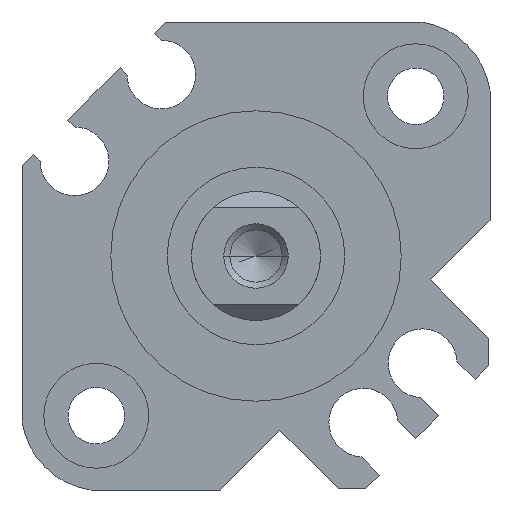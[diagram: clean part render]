
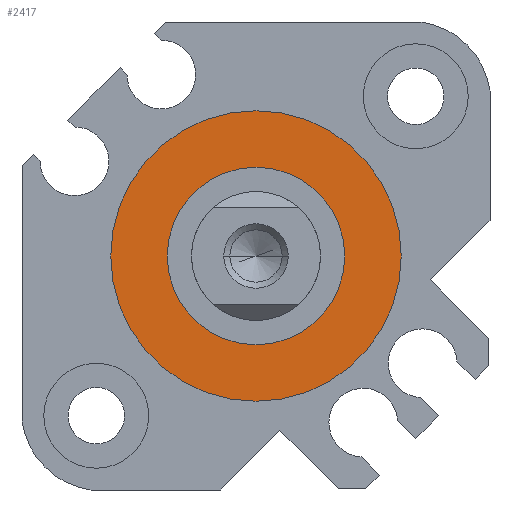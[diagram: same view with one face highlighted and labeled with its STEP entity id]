
A CAD part, left-side view. The second image highlights one B-rep face of the part: STEP entity #2417.
In plain terms, the highlighted planar face has unit normal (-1, 0, 0).
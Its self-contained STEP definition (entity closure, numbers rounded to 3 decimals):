
#136 = CARTESIAN_POINT ( 'NONE',  ( 1.1, 0., 0. ) ) ;
#144 = DIRECTION ( 'NONE',  ( 0., 0., -1. ) ) ;
#152 = PLANE ( 'NONE',  #1544 ) ;
#213 = FACE_OUTER_BOUND ( 'NONE', #3119, .T. ) ;
#236 = EDGE_LOOP ( 'NONE', ( #588, #1117 ) ) ;
#237 = AXIS2_PLACEMENT_3D ( 'NONE', #416, #1999, #144 ) ;
#301 = CARTESIAN_POINT ( 'NONE',  ( 1.1, 0., 0. ) ) ;
#416 = CARTESIAN_POINT ( 'NONE',  ( 1.1, 0., 0. ) ) ;
#439 = DIRECTION ( 'NONE',  ( 0., 1., 0. ) ) ;
#471 = EDGE_CURVE ( 'NONE', #2368, #2521, #1412, .T. ) ;
#588 = ORIENTED_EDGE ( 'NONE', *, *, #471, .T. ) ;
#655 = AXIS2_PLACEMENT_3D ( 'NONE', #979, #2038, #1030 ) ;
#800 = AXIS2_PLACEMENT_3D ( 'NONE', #1418, #943, #2000 ) ;
#943 = DIRECTION ( 'NONE',  ( 1., 0., 0. ) ) ;
#979 = CARTESIAN_POINT ( 'NONE',  ( 1.1, 0., 0. ) ) ;
#1030 = DIRECTION ( 'NONE',  ( 0., 0., -1. ) ) ;
#1043 = CIRCLE ( 'NONE', #655, 5.5 ) ;
#1117 = ORIENTED_EDGE ( 'NONE', *, *, #2509, .T. ) ;
#1326 = CARTESIAN_POINT ( 'NONE',  ( 1.1, 0., -5.5 ) ) ;
#1347 = DIRECTION ( 'NONE',  ( 1., 0., 0. ) ) ;
#1356 = ORIENTED_EDGE ( 'NONE', *, *, #1819, .F. ) ;
#1363 = DIRECTION ( 'NONE',  ( 0., 0., -1. ) ) ;
#1412 = CIRCLE ( 'NONE', #237, 5.5 ) ;
#1418 = CARTESIAN_POINT ( 'NONE',  ( 1.1, 0., 0. ) ) ;
#1451 = CARTESIAN_POINT ( 'NONE',  ( 1.1, 0., 9. ) ) ;
#1499 = ORIENTED_EDGE ( 'NONE', *, *, #3376, .F. ) ;
#1517 = DIRECTION ( 'NONE',  ( 1., 0., 0. ) ) ;
#1544 = AXIS2_PLACEMENT_3D ( 'NONE', #136, #1517, #439 ) ;
#1819 = EDGE_CURVE ( 'NONE', #2260, #2360, #1836, .T. ) ;
#1836 = CIRCLE ( 'NONE', #2721, 9. ) ;
#1999 = DIRECTION ( 'NONE',  ( 1., 0., 0. ) ) ;
#2000 = DIRECTION ( 'NONE',  ( 0., 0., -1. ) ) ;
#2005 = CARTESIAN_POINT ( 'NONE',  ( 1.1, 0., 5.5 ) ) ;
#2038 = DIRECTION ( 'NONE',  ( 1., 0., 0. ) ) ;
#2260 = VERTEX_POINT ( 'NONE', #1451 ) ;
#2353 = CIRCLE ( 'NONE', #800, 9. ) ;
#2360 = VERTEX_POINT ( 'NONE', #3099 ) ;
#2368 = VERTEX_POINT ( 'NONE', #2005 ) ;
#2417 = ADVANCED_FACE ( 'NONE', ( #213, #3362 ), #152, .F. ) ;
#2509 = EDGE_CURVE ( 'NONE', #2521, #2368, #1043, .T. ) ;
#2521 = VERTEX_POINT ( 'NONE', #1326 ) ;
#2721 = AXIS2_PLACEMENT_3D ( 'NONE', #301, #1347, #1363 ) ;
#3099 = CARTESIAN_POINT ( 'NONE',  ( 1.1, 0., -9. ) ) ;
#3119 = EDGE_LOOP ( 'NONE', ( #1356, #1499 ) ) ;
#3362 = FACE_BOUND ( 'NONE', #236, .T. ) ;
#3376 = EDGE_CURVE ( 'NONE', #2360, #2260, #2353, .T. ) ;
